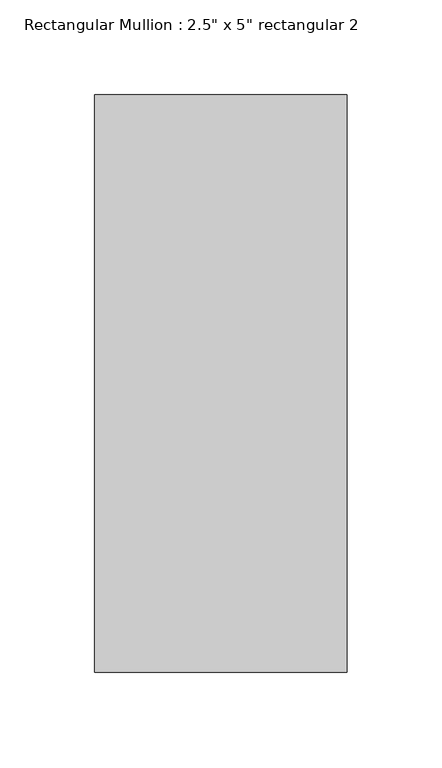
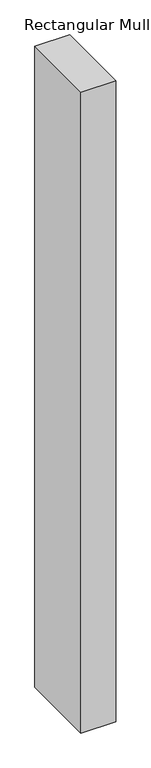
"""IFC4 building model written with IfcOpenShell, lengths in millimetres: member geometry."""

from ifc_helpers import new_model, si_unit, frame, origin, place, context, project, spatial, polyline, outline, extrude, source, transform, mapped, element, save


def member_393abe5d(model_context):
    return source(origin(), model_context, "Body", "SweptSolid", [
        extrude(outline(polyline([(0.0, 152.4), (0.0, -152.4), (-133.35, -152.4), (-133.35, 152.4), (0.0, 152.4)])), frame((0.0, 0.0, -2597.7570075), z_axis=(0.0, 0.0, 1.0), x_axis=(1.0, 0.0, 0.0)), (0.0, 0.0, 1.0), 2597.7570075),
    ])


if __name__ == "__main__":
    model = new_model("IFC4")
    model_context = context("Model", 3, world=origin())
    ifc_project = project(units=[si_unit("LENGTHUNIT", "METRE", prefix="MILLI")], contexts=[model_context])
    site = spatial("IfcSite", under=ifc_project)
    building = spatial("IfcBuilding", under=site)
    placement = place(None, origin())
    member_shape = member_393abe5d(model_context)
    element("IfcMember", 1, ObjectType="Rectangular Mullion : 2.5\" x 5\" rectangular 2", at=placement, inside=building, context=model_context, shape_type="MappedRepresentation", body=[
        mapped(member_shape, transform((0.0, 0.0, 0.0), x_axis=(1.0, 0.0, 0.0), y_axis=(0.0, 1.0, 0.0), z_axis=(0.0, 0.0, 1.0))),
    ])
    save(model, "model.ifc")
